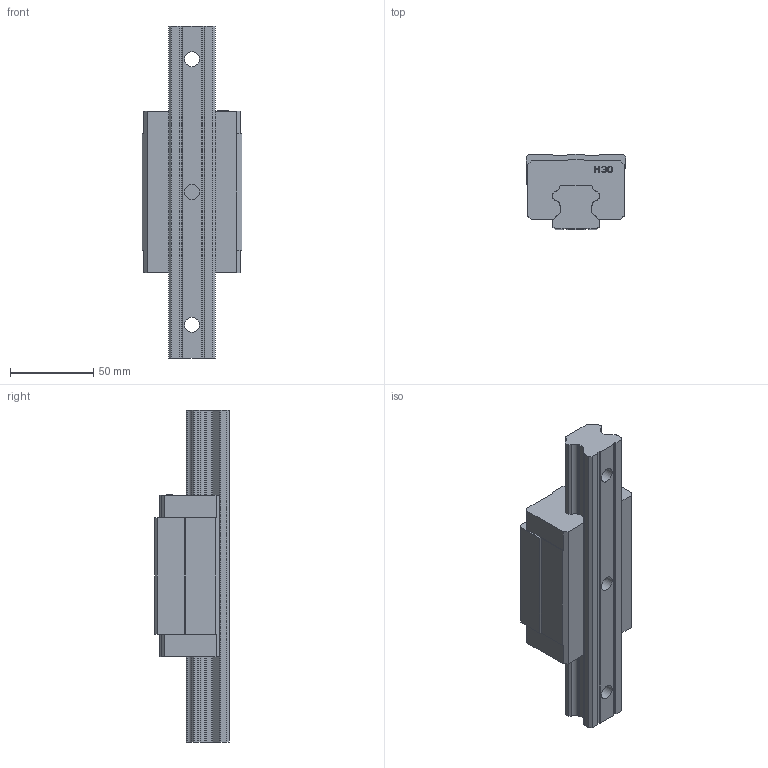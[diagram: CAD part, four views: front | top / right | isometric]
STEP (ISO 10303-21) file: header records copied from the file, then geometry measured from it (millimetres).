
FILE_DESCRIPTION(/* description */ (''),/* implementation_level */ '2;1');
FILE_NAME(/* name */ 'HGH30CA.stp',/* time_stamp */ '2021-04-10T21:07:48+08:00',/* author */ (''),/* organization */ (''),/* preprocessor_version */ 'ST-DEVELOPER v15',/* originating_system */ 'SIEMENS PLM Software NX 8.5',/* authorisation */ '');
FILE_SCHEMA (('CONFIG_CONTROL_DESIGN'));
Length unit declared in the file: millimetre
Products named in the file (1): _model1
Bounding box: 60 x 45 x 200 mm (x, y, z)
Volume: 285146.1 mm3; surface area: 53204.4 mm2
Topology: 2 solids, 2 shells, 266 faces, 757 edges, 506 vertices
Faces by surface type: plane 214, cylinder 52
Full cylindrical faces by diameter (mm): 8 x4, 9 x3, 14 x3
Entity records: 8585 total; most frequent: CARTESIAN_POINT 1512, ORIENTED_EDGE 1486, DIRECTION 1381, EDGE_CURVE 743, LINE 639, VECTOR 639, VERTEX_POINT 502, AXIS2_PLACEMENT_3D 371
